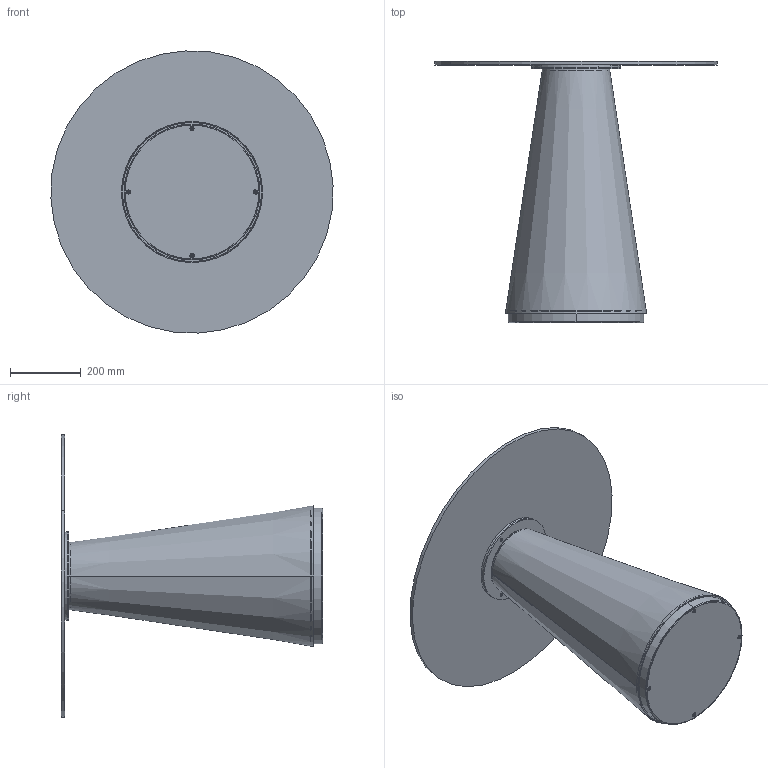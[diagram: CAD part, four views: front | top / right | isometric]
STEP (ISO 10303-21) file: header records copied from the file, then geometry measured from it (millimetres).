
FILE_DESCRIPTION (( 'STEP AP203' ), '1' );
FILE_NAME ('TE20G.STEP', '2024-08-08T07:50:05', ( '' ), ( '' ), 'SwSTEP 2.0', 'SolidWorks 2022', '' );
FILE_SCHEMA (( 'CONFIG_CONTROL_DESIGN' ));
Length unit declared in the file: millimetre
Products named in the file (10): P0000003-00-STAFFA DI FISSAGGIO DIAMETRO 250_P0000003-250mm normale; TED000000TCONO-00-TED CONO; C1XCRMXX-00-piani Rotondi Cristallo_C02 D.80cm; M6xXXmm_HEX_M6x20mm HEX; Assieme BASE TED; CXXCRXX-00-Piani Rotondi in Cristallo CON PIASTRA_C02P PIANO CRISTALLO D.80cm; M6xXXmm_HEX_M6x40mm HEX; TED000000BAS_01-00-TED PIASTRA; TE20G; TED000000PIA-00-TED PIASTRA SOPRA
Assembly tree (15 placements, depth 3):
  TE20G
    CXXCRXX-00-Piani Rotondi in Cristallo CON PIASTRA_C02P PIANO CRISTALLO D.80cm
      C1XCRMXX-00-piani Rotondi Cristallo_C02 D.80cm
      P0000003-00-STAFFA DI FISSAGGIO DIAMETRO 250_P0000003-250mm normale
    Assieme BASE TED
      TED000000BAS_01-00-TED PIASTRA
      TED000000PIA-00-TED PIASTRA SOPRA
      TED000000TCONO-00-TED CONO
      M6xXXmm_HEX_M6x20mm HEX  x4
      M6xXXmm_HEX_M6x40mm HEX  x4
Bounding box: 799.2 x 739.5 x 799.2 mm (x, y, z)
Volume: 6705508.9 mm3; surface area: 2938618.9 mm2
Topology: 15 solids, 15 shells, 370 faces, 781 edges, 434 vertices
Faces by surface type: plane 177, cylinder 113, cone 60, torus 20
Entity records: 5987 total; most frequent: DIRECTION 955, CARTESIAN_POINT 779, ORIENTED_EDGE 738, AXIS2_PLACEMENT_3D 400, EDGE_CURVE 369, VERTEX_POINT 224, EDGE_LOOP 221, CIRCLE 214
